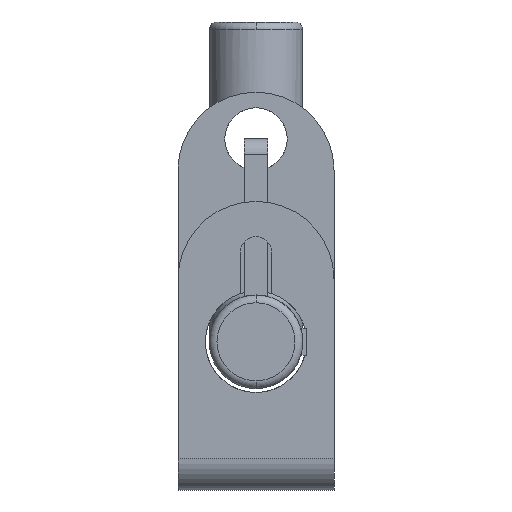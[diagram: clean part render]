
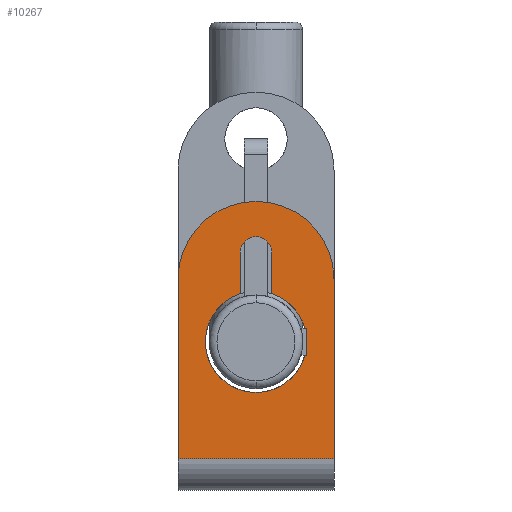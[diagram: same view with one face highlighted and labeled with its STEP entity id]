
A CAD part, front view. The second image highlights one B-rep face of the part: STEP entity #10267.
In plain terms, the highlighted planar face has unit normal (0, -1, 0).
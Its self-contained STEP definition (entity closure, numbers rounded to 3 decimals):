
#173 = VERTEX_POINT ( 'NONE', #12685 ) ;
#378 = VERTEX_POINT ( 'NONE', #696 ) ;
#585 = EDGE_CURVE ( 'NONE', #378, #173, #789, .T. ) ;
#685 = CARTESIAN_POINT ( 'NONE',  ( 2., 0., 11.5 ) ) ;
#696 = CARTESIAN_POINT ( 'NONE',  ( -10., 0., 8. ) ) ;
#762 = CIRCLE ( 'NONE', #763, 2. ) ;
#763 = AXIS2_PLACEMENT_3D ( 'NONE', #764, #765, #766 ) ;
#764 = CARTESIAN_POINT ( 'NONE',  ( 0., 0., 11.5 ) ) ;
#765 = DIRECTION ( 'NONE',  ( 0., -1., 0. ) ) ;
#766 = DIRECTION ( 'NONE',  ( 0., 0., 1. ) ) ;
#783 = CIRCLE ( 'NONE', #784, 10. ) ;
#784 = AXIS2_PLACEMENT_3D ( 'NONE', #785, #786, #788 ) ;
#785 = CARTESIAN_POINT ( 'NONE',  ( 0., 0., 8. ) ) ;
#786 = DIRECTION ( 'NONE',  ( 0., -1., 0. ) ) ;
#788 = DIRECTION ( 'NONE',  ( 0., 0., 1. ) ) ;
#789 = LINE ( 'NONE', #790, #791 ) ;
#790 = CARTESIAN_POINT ( 'NONE',  ( -10., 0., 18. ) ) ;
#791 = VECTOR ( 'NONE', #792, 1000. ) ;
#792 = DIRECTION ( 'NONE',  ( 0., 0., -1. ) ) ;
#926 = ORIENTED_EDGE ( 'NONE', *, *, #585, .T. ) ;
#1214 = CARTESIAN_POINT ( 'NONE',  ( 2., 0., 6.185 ) ) ;
#1229 = CARTESIAN_POINT ( 'NONE',  ( 10., 0., -15. ) ) ;
#1363 = LINE ( 'NONE', #1364, #1365 ) ;
#1364 = CARTESIAN_POINT ( 'NONE',  ( 2., 0., 11.5 ) ) ;
#1365 = VECTOR ( 'NONE', #1366, 1000. ) ;
#1366 = DIRECTION ( 'NONE',  ( 0., 0., 1. ) ) ;
#1379 = LINE ( 'NONE', #1380, #1381 ) ;
#1380 = CARTESIAN_POINT ( 'NONE',  ( 10., 0., -15. ) ) ;
#1381 = VECTOR ( 'NONE', #1382, 1000. ) ;
#1382 = DIRECTION ( 'NONE',  ( 1., 0., 0. ) ) ;
#1395 = EDGE_LOOP ( 'NONE', ( #926, #14945, #13932, #8809, #12516 ) ) ;
#1462 = CARTESIAN_POINT ( 'NONE',  ( 0., 0., 18. ) ) ;
#1463 = FACE_BOUND ( 'NONE', #10050, .T. ) ;
#1464 = FACE_OUTER_BOUND ( 'NONE', #1395, .T. ) ;
#1465 = PLANE ( 'NONE',  #1466 ) ;
#1466 = AXIS2_PLACEMENT_3D ( 'NONE', #1467, #1468, #1469 ) ;
#1467 = CARTESIAN_POINT ( 'NONE',  ( 10., 0., 18. ) ) ;
#1468 = DIRECTION ( 'NONE',  ( 0., 1., 0. ) ) ;
#1469 = DIRECTION ( 'NONE',  ( 0., 0., 1. ) ) ;
#1495 = LINE ( 'NONE', #1496, #1497 ) ;
#1496 = CARTESIAN_POINT ( 'NONE',  ( -2., 0., 11.5 ) ) ;
#1497 = VECTOR ( 'NONE', #1498, 1000. ) ;
#1498 = DIRECTION ( 'NONE',  ( 0., 0., -1. ) ) ;
#1616 = EDGE_CURVE ( 'NONE', #8826, #2423, #1495, .T. ) ;
#1648 = CARTESIAN_POINT ( 'NONE',  ( 10., 0., 8. ) ) ;
#1951 = ORIENTED_EDGE ( 'NONE', *, *, #1616, .F. ) ;
#2423 = VERTEX_POINT ( 'NONE', #5253 ) ;
#5133 = CIRCLE ( 'NONE', #5134, 10. ) ;
#5134 = AXIS2_PLACEMENT_3D ( 'NONE', #5135, #5136, #5137 ) ;
#5135 = CARTESIAN_POINT ( 'NONE',  ( 0., 0., 8. ) ) ;
#5136 = DIRECTION ( 'NONE',  ( 0., -1., 0. ) ) ;
#5137 = DIRECTION ( 'NONE',  ( 0., 0., 1. ) ) ;
#5253 = CARTESIAN_POINT ( 'NONE',  ( -2., 0., 6.185 ) ) ;
#6991 = EDGE_CURVE ( 'NONE', #7814, #2423, #8519, .T. ) ;
#7333 = ORIENTED_EDGE ( 'NONE', *, *, #6991, .T. ) ;
#7814 = VERTEX_POINT ( 'NONE', #1214 ) ;
#8016 = EDGE_CURVE ( 'NONE', #7814, #9030, #1363, .T. ) ;
#8351 = ORIENTED_EDGE ( 'NONE', *, *, #8016, .F. ) ;
#8519 = CIRCLE ( 'NONE', #8520, 6.5 ) ;
#8520 = AXIS2_PLACEMENT_3D ( 'NONE', #8521, #8522, #8526 ) ;
#8521 = CARTESIAN_POINT ( 'NONE',  ( 0., 0., 0. ) ) ;
#8522 = DIRECTION ( 'NONE',  ( 0., 1., 0. ) ) ;
#8526 = DIRECTION ( 'NONE',  ( 0., 0., 1. ) ) ;
#8535 = LINE ( 'NONE', #8536, #8537 ) ;
#8536 = CARTESIAN_POINT ( 'NONE',  ( 10., 0., 18. ) ) ;
#8537 = VECTOR ( 'NONE', #8538, 1000. ) ;
#8538 = DIRECTION ( 'NONE',  ( 0., 0., -1. ) ) ;
#8809 = ORIENTED_EDGE ( 'NONE', *, *, #9266, .T. ) ;
#8826 = VERTEX_POINT ( 'NONE', #12646 ) ;
#9030 = VERTEX_POINT ( 'NONE', #685 ) ;
#9233 = EDGE_CURVE ( 'NONE', #9030, #8826, #762, .T. ) ;
#9266 = EDGE_CURVE ( 'NONE', #12468, #12594, #783, .T. ) ;
#9571 = ORIENTED_EDGE ( 'NONE', *, *, #9233, .F. ) ;
#10050 = EDGE_LOOP ( 'NONE', ( #9571, #8351, #7333, #1951 ) ) ;
#10267 = ADVANCED_FACE ( 'NONE', ( #1463, #1464 ), #1465, .F. ) ;
#12468 = VERTEX_POINT ( 'NONE', #1648 ) ;
#12516 = ORIENTED_EDGE ( 'NONE', *, *, #15199, .T. ) ;
#12594 = VERTEX_POINT ( 'NONE', #1462 ) ;
#12646 = CARTESIAN_POINT ( 'NONE',  ( -2., 0., 11.5 ) ) ;
#12685 = CARTESIAN_POINT ( 'NONE',  ( -10., 0., -15. ) ) ;
#13588 = EDGE_CURVE ( 'NONE', #12468, #14405, #8535, .T. ) ;
#13932 = ORIENTED_EDGE ( 'NONE', *, *, #13588, .F. ) ;
#14405 = VERTEX_POINT ( 'NONE', #1229 ) ;
#14608 = EDGE_CURVE ( 'NONE', #173, #14405, #1379, .T. ) ;
#14945 = ORIENTED_EDGE ( 'NONE', *, *, #14608, .T. ) ;
#15199 = EDGE_CURVE ( 'NONE', #12594, #378, #5133, .T. ) ;
